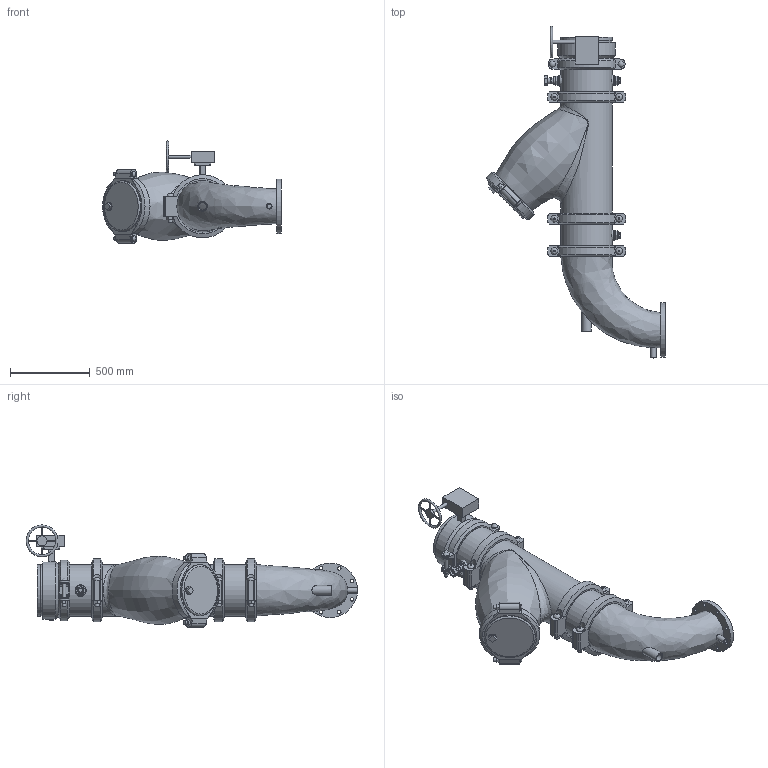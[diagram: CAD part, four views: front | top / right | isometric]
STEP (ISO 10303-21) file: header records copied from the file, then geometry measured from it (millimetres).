
FILE_DESCRIPTION(/* description */ ('VIC SVI PUMP DROP HORZ S/382 (OGSxFLG) (S/924-1.25)','CAx-IF Rec.Pracs.---Representation and Presentation of Product Manufacturing Information (PMI)---4.0---2014-10-13'),/* implementation_level */ '2;1');
FILE_NAME(/* name */ 'C:\Users\Vjadhav\AppData\Roaming\Autodesk\ApplicationPlugins\Victaulic.Temp\A115\Series 382 (OGSxFLG)_924 (1.25)_12.0x08.0 (300x200).stp',/* time_stamp */ '2022-03-17T12:21:19+06:00',/* author */ ('kkamble'),/* organization */ ('Victaulic'),/* preprocessor_version */ 'ST-DEVELOPER v17.2',/* originating_system */ 'Autodesk Inventor 2019',/* authorisation */ '');
FILE_SCHEMA (('AP242_MANAGED_MODEL_BASED_3D_ENGINEERING_MIM_LF { 1 0 10303 442 1 1 4 }'));
Length unit declared in the file: inch
Products named in the file (13): 382_924 (1.25)-12.0x08.0; PIPE-12.0; 107N-12.0; 732-12.0; 732-12.0_1; 07-12.0; 732-12.0_2; 077-12.0; PIPE-12.1; 761-12.0; 924-10.0x01.25; 923-10.0x0.75; R100F-12.0x08.0
Assembly tree (15 placements, depth 3):
  382_924 (1.25)-12.0x08.0
    PIPE-12.0
    107N-12.0
    732-12.0
      732-12.0_1
      07-12.0
      732-12.0_2
    077-12.0  x3
    PIPE-12.1
    761-12.0
    924-10.0x01.25
    923-10.0x0.75  x2
    R100F-12.0x08.0
Bounding box: 1123.95 x 2085.77 x 642.17 mm (x, y, z)
Volume: 45580233.4 mm3; surface area: 7237768.5 mm2
Topology: 14 solids, 24 shells, 757 faces, 1884 edges, 1272 vertices
Faces by surface type: plane 427, cylinder 254, bspline 36, cone 27, torus 9, sphere 4
Full cylindrical faces by diameter (mm): 10.922 x4, 20.066 x1, 21.336 x3, 22.225 x8, 22.352 x8, 22.86 x1, 25.4 x12, 26.67 x4, 27.432 x6, 31.75 x1, 34.29 x1, 37.694 x4, 38.608 x1, 42.164 x1, 45.974 x6, 48.26 x1, 48.514 x1, 50.8 x1, 55.626 x3, 60.96 x1, 63.079 x1, 70.104 x1, 76.2 x2, 202.717 x1, 292.1 x1, 303.225 x1, 304.216 x1, 304.546 x1, 304.8 x3, 311.15 x2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
Entity records: 24604 total; most frequent: CARTESIAN_POINT 9171, DIRECTION 3113, ORIENTED_EDGE 2888, EDGE_CURVE 1444, AXIS2_PLACEMENT_3D 1195, VERTEX_POINT 979, LINE 723, VECTOR 723
